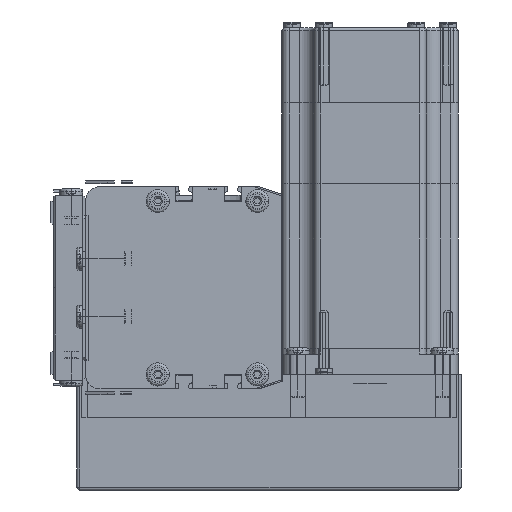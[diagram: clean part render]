
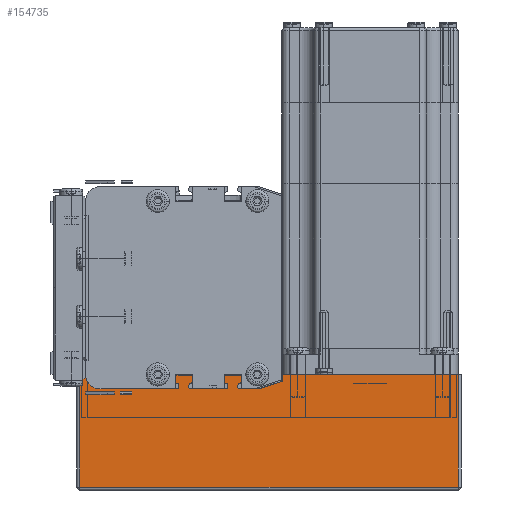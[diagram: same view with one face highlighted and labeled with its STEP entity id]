
A CAD part, left-side view. The second image highlights one B-rep face of the part: STEP entity #154735.
In plain terms, the highlighted planar face has unit normal (-1, 0, 0) as drawn and (0, 1, 0) by its records, which use the part's own axes.
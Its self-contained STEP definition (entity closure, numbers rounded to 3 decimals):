
#23305 = CARTESIAN_POINT ( 'NONE',  ( 132., 62., 0. ) ) ;
#23548 = CARTESIAN_POINT ( 'NONE',  ( 1., 62., 0. ) ) ;
#23775 = DIRECTION ( 'NONE',  ( -1., 0., 0. ) ) ;
#23777 = VECTOR ( 'NONE', #23775, 1000. ) ;
#23778 = CARTESIAN_POINT ( 'NONE',  ( 0., 62., 0. ) ) ;
#23779 = LINE ( 'NONE', #23778, #23777 ) ;
#31333 = PLANE ( 'NONE',  #31570 ) ;
#31434 = DIRECTION ( 'NONE',  ( 0., 0., -1. ) ) ;
#31450 = FACE_OUTER_BOUND ( 'NONE', #154680, .T. ) ;
#31512 = CARTESIAN_POINT ( 'NONE',  ( 132., 62., 39. ) ) ;
#31523 = DIRECTION ( 'NONE',  ( 0., 0., 1. ) ) ;
#31524 = VECTOR ( 'NONE', #31523, 1000. ) ;
#31526 = CARTESIAN_POINT ( 'NONE',  ( 1., 62., 40. ) ) ;
#31529 = LINE ( 'NONE', #31526, #31524 ) ;
#31534 = VECTOR ( 'NONE', #31434, 1000. ) ;
#31546 = DIRECTION ( 'NONE',  ( 0., 0., -1. ) ) ;
#31548 = DIRECTION ( 'NONE',  ( 0., -1., 0. ) ) ;
#31550 = CARTESIAN_POINT ( 'NONE',  ( 0., 62., 40. ) ) ;
#31551 = CARTESIAN_POINT ( 'NONE',  ( 132., 62., 40. ) ) ;
#31560 = CARTESIAN_POINT ( 'NONE',  ( 1., 62., 39. ) ) ;
#31562 = LINE ( 'NONE', #31551, #31534 ) ;
#31570 = AXIS2_PLACEMENT_3D ( 'NONE', #31550, #31548, #31546 ) ;
#31628 = DIRECTION ( 'NONE',  ( 1., 0., 0. ) ) ;
#31629 = VECTOR ( 'NONE', #31628, 1000. ) ;
#31631 = CARTESIAN_POINT ( 'NONE',  ( 0., 62., 39. ) ) ;
#31635 = LINE ( 'NONE', #31631, #31629 ) ;
#153984 = VERTEX_POINT ( 'NONE', #23305 ) ;
#154032 = VERTEX_POINT ( 'NONE', #23548 ) ;
#154080 = EDGE_CURVE ( 'NONE', #153984, #154032, #23779, .T. ) ;
#154680 = EDGE_LOOP ( 'NONE', ( #154733, #154736, #154716, #154715 ) ) ;
#154715 = ORIENTED_EDGE ( 'NONE', *, *, #154738, .T. ) ;
#154716 = ORIENTED_EDGE ( 'NONE', *, *, #154080, .T. ) ;
#154733 = ORIENTED_EDGE ( 'NONE', *, *, #154750, .T. ) ;
#154735 = ADVANCED_FACE ( 'NONE', ( #31450 ), #31333, .F. ) ;
#154736 = ORIENTED_EDGE ( 'NONE', *, *, #154737, .T. ) ;
#154737 = EDGE_CURVE ( 'NONE', #154752, #153984, #31562, .T. ) ;
#154738 = EDGE_CURVE ( 'NONE', #154032, #154746, #31529, .T. ) ;
#154746 = VERTEX_POINT ( 'NONE', #31560 ) ;
#154750 = EDGE_CURVE ( 'NONE', #154746, #154752, #31635, .T. ) ;
#154752 = VERTEX_POINT ( 'NONE', #31512 ) ;
